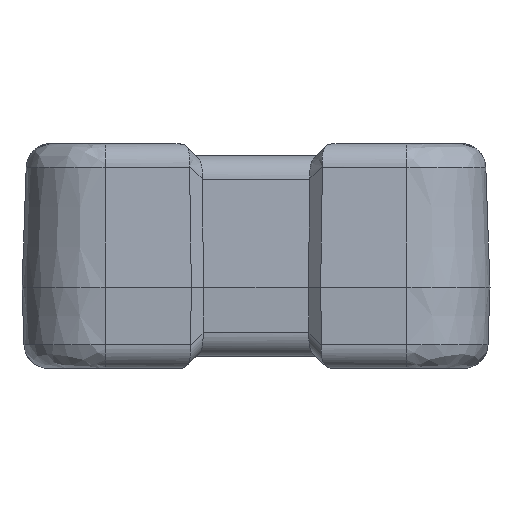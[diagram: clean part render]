
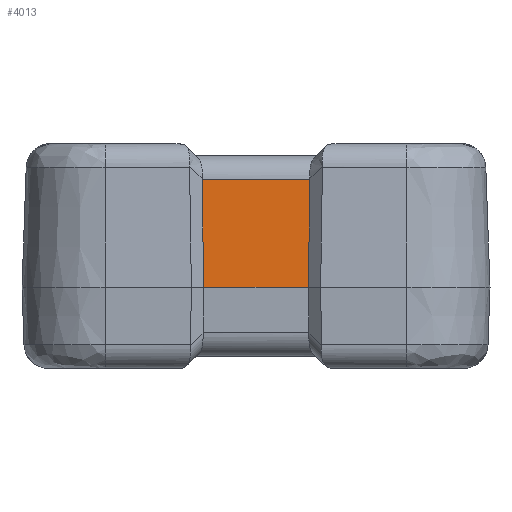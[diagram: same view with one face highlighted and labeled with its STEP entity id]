
A CAD part, front view. The second image highlights one B-rep face of the part: STEP entity #4013.
In plain terms, the highlighted planar face has unit normal (0, -0.999, 0.035).
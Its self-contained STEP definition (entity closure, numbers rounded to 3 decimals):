
#897 = VECTOR ( 'NONE', #7950, 1000. ) ;
#1334 = CARTESIAN_POINT ( 'NONE',  ( 12.999, -85.822, 17.24 ) ) ;
#3477 = EDGE_LOOP ( 'NONE', ( #5416, #7247, #16407, #11115 ) ) ;
#3546 = VERTEX_POINT ( 'NONE', #12579 ) ;
#4013 = ADVANCED_FACE ( 'NONE', ( #12910 ), #9223, .F. ) ;
#5270 = VECTOR ( 'NONE', #6751, 1000. ) ;
#5416 = ORIENTED_EDGE ( 'NONE', *, *, #9995, .F. ) ;
#5752 = CARTESIAN_POINT ( 'NONE',  ( 12.746, -86.432, -0.243 ) ) ;
#5785 = DIRECTION ( 'NONE',  ( -0.014, 0.035, 0.999 ) ) ;
#6751 = DIRECTION ( 'NONE',  ( -1., 0., 0. ) ) ;
#7247 = ORIENTED_EDGE ( 'NONE', *, *, #9599, .F. ) ;
#7950 = DIRECTION ( 'NONE',  ( -0.014, -0.035, -0.999 ) ) ;
#9223 = PLANE ( 'NONE',  #17944 ) ;
#9599 = EDGE_CURVE ( 'NONE', #3546, #19862, #16406, .T. ) ;
#9851 = VERTEX_POINT ( 'NONE', #5752 ) ;
#9995 = EDGE_CURVE ( 'NONE', #19862, #9851, #13042, .T. ) ;
#10551 = VERTEX_POINT ( 'NONE', #15033 ) ;
#10910 = DIRECTION ( 'NONE',  ( 0., 0.035, 0.999 ) ) ;
#11115 = ORIENTED_EDGE ( 'NONE', *, *, #20372, .F. ) ;
#12076 = VECTOR ( 'NONE', #13370, 1000. ) ;
#12276 = LINE ( 'NONE', #18489, #5270 ) ;
#12579 = CARTESIAN_POINT ( 'NONE',  ( -4.507, -85.822, 17.24 ) ) ;
#12849 = CARTESIAN_POINT ( 'NONE',  ( 12.999, -85.822, 17.24 ) ) ;
#12910 = FACE_OUTER_BOUND ( 'NONE', #3477, .T. ) ;
#13042 = LINE ( 'NONE', #12849, #897 ) ;
#13228 = CARTESIAN_POINT ( 'NONE',  ( -0.004, -85.822, 17.24 ) ) ;
#13370 = DIRECTION ( 'NONE',  ( 1., 0., 0. ) ) ;
#14043 = EDGE_CURVE ( 'NONE', #10551, #3546, #18674, .T. ) ;
#14302 = VECTOR ( 'NONE', #5785, 1000. ) ;
#15033 = CARTESIAN_POINT ( 'NONE',  ( -4.254, -86.432, -0.243 ) ) ;
#16406 = LINE ( 'NONE', #13228, #12076 ) ;
#16407 = ORIENTED_EDGE ( 'NONE', *, *, #14043, .F. ) ;
#17512 = CARTESIAN_POINT ( 'NONE',  ( -4.254, -85.688, 21.087 ) ) ;
#17944 = AXIS2_PLACEMENT_3D ( 'NONE', #17512, #19183, #10910 ) ;
#18489 = CARTESIAN_POINT ( 'NONE',  ( -4.254, -86.432, -0.243 ) ) ;
#18560 = CARTESIAN_POINT ( 'NONE',  ( -4.254, -86.432, -0.243 ) ) ;
#18674 = LINE ( 'NONE', #18560, #14302 ) ;
#19183 = DIRECTION ( 'NONE',  ( 0., 0.999, -0.035 ) ) ;
#19862 = VERTEX_POINT ( 'NONE', #1334 ) ;
#20372 = EDGE_CURVE ( 'NONE', #9851, #10551, #12276, .T. ) ;
